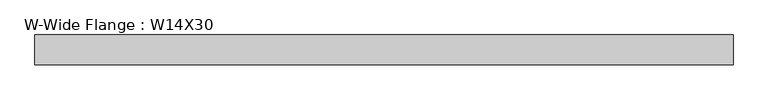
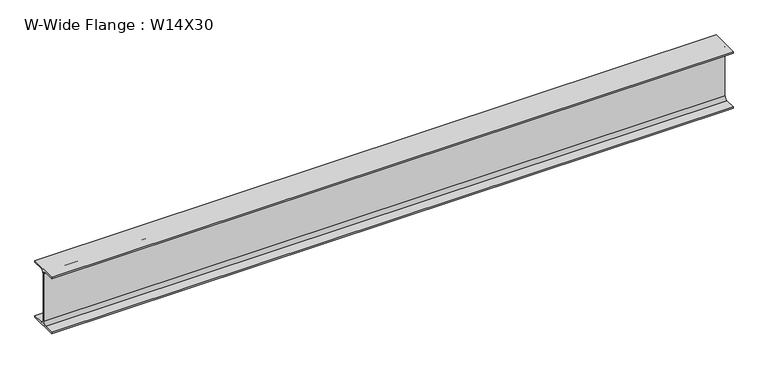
"""IFC4 building model written with IfcOpenShell, lengths in millimetres: beam geometry, W-Wide Flange : W14X30."""

from ifc_helpers import new_model, si_unit, point, frame, frame_2d, origin, place, context, project, spatial, polyline, circle_curve, trimmed, segment, composite_curve, outline, extrude, source, transform, mapped, element, save


def w_wide_flange_w14x30_6ec3b930(model_context):
    return source(origin(), model_context, "Body", "SweptSolid", [
        extrude(outline(composite_curve([segment(polyline([(85.471, -165.481), (85.471, -175.26), (-85.471, -175.26), (-85.471, -165.481), (-22.225, -165.481)]), True, "CONTINUOUS"), segment(trimmed(circle_curve(frame_2d((-22.225, -146.685)), 18.796), [point((-22.225, -165.481))], [point((-3.429, -146.685))], True, "CARTESIAN"), True, "CONTINUOUS"), segment(polyline([(-3.429, -146.685), (-3.429, 146.685)]), True, "CONTINUOUS"), segment(trimmed(circle_curve(frame_2d((-22.225, 146.685)), 18.796), [point((-3.429, 146.685))], [point((-22.225, 165.481))], True, "CARTESIAN"), True, "CONTINUOUS"), segment(polyline([(-22.225, 165.481), (-85.471, 165.481), (-85.471, 175.26), (85.471, 175.26), (85.471, 165.481), (22.225, 165.481)]), True, "CONTINUOUS"), segment(trimmed(circle_curve(frame_2d((22.225, 146.685)), 18.796), [point((22.225, 165.481))], [point((3.429, 146.685))], True, "CARTESIAN"), True, "CONTINUOUS"), segment(polyline([(3.429, 146.685), (3.429, -146.685)]), True, "CONTINUOUS"), segment(trimmed(circle_curve(frame_2d((22.225, -146.685)), 18.796), [point((3.429, -146.685))], [point((22.225, -165.481))], True, "CARTESIAN"), True, "CONTINUOUS"), segment(polyline([(22.225, -165.481), (85.471, -165.481)]), True, "CONTINUOUS")], self_intersect=False)), frame((-1994.200404, 0.0, 0.0), z_axis=(1.0, 0.0, 0.0), x_axis=(0.0, 1.0, 0.0)), (0.0, 0.0, 1.0), 3988.400808),
    ])


if __name__ == "__main__":
    model = new_model("IFC4")
    model_context = context("Model", 3, world=origin())
    ifc_project = project(units=[si_unit("LENGTHUNIT", "METRE", prefix="MILLI")], contexts=[model_context])
    site = spatial("IfcSite", under=ifc_project)
    building = spatial("IfcBuilding", under=site)
    placement = place(None, origin())
    w_wide_flange_w14x30_shape = w_wide_flange_w14x30_6ec3b930(model_context)
    element("IfcBeam", 1, ObjectType="W-Wide Flange : W14X30", at=placement, inside=building, context=model_context, shape_type="MappedRepresentation", body=[
        mapped(w_wide_flange_w14x30_shape, transform((0.0, 0.0, 0.0), x_axis=(1.0, 0.0, 0.0), y_axis=(0.0, 1.0, 0.0), z_axis=(0.0, 0.0, 1.0))),
    ])
    save(model, "model.ifc")
